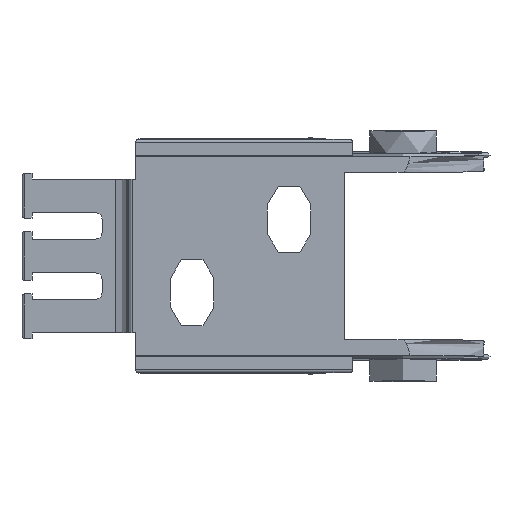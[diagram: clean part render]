
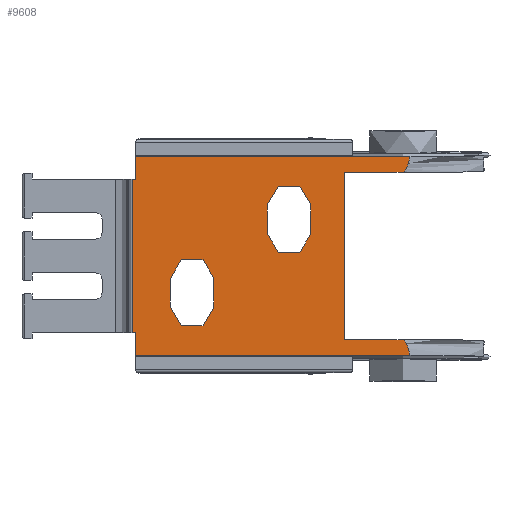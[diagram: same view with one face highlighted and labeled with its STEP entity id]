
A CAD part, front view. The second image highlights one B-rep face of the part: STEP entity #9608.
In plain terms, the highlighted planar face has unit normal (0, -1, 0).
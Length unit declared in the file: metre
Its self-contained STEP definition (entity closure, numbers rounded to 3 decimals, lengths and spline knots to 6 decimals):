
#593=CARTESIAN_POINT('',(0.0211,-0.010931,-0.688182));
#594=DIRECTION('',(0.,-1.,0.));
#595=DIRECTION('',(0.,0.,1.));
#596=AXIS2_PLACEMENT_3D('',#593,#594,#595);
#597=ELLIPSE('',#596,0.744883,0.013);
#598=CARTESIAN_POINT('',(0.022133,-0.010931,0.054348));
#599=VERTEX_POINT('',#598);
#600=CARTESIAN_POINT('',(0.0211,-0.010931,0.056701));
#601=VERTEX_POINT('',#600);
#602=EDGE_CURVE('',#599,#601,#597,.T.);
#706=CARTESIAN_POINT('',(0.0123,-0.010931,0.056701));
#707=VERTEX_POINT('',#706);
#710=CARTESIAN_POINT('',(-0.0189,-0.010931,0.056701));
#711=DIRECTION('',(-1.,0.,0.));
#712=VECTOR('',#711,1.);
#713=LINE('',#710,#712);
#714=EDGE_CURVE('',#601,#707,#713,.T.);
#738=CARTESIAN_POINT('',(0.0123,-0.010931,0.081701));
#739=VERTEX_POINT('',#738);
#742=CARTESIAN_POINT('',(0.0123,-0.010931,0.055451));
#743=DIRECTION('',(0.,0.,-1.));
#744=VECTOR('',#743,1.);
#745=LINE('',#742,#744);
#746=EDGE_CURVE('',#739,#707,#745,.T.);
#798=CARTESIAN_POINT('',(0.0211,-0.010931,0.081701));
#799=VERTEX_POINT('',#798);
#802=CARTESIAN_POINT('',(0.0211,-0.010931,0.081701));
#803=DIRECTION('',(1.,0.,0.));
#804=VECTOR('',#803,1.);
#805=LINE('',#802,#804);
#806=EDGE_CURVE('',#739,#799,#805,.T.);
#7080=CARTESIAN_POINT('',(0.022133,-0.010931,0.084055));
#7081=VERTEX_POINT('',#7080);
#7084=CARTESIAN_POINT('',(0.0211,-0.010931,0.826584));
#7085=DIRECTION('',(0.,-1.,0.));
#7086=DIRECTION('',(0.,0.,1.));
#7087=AXIS2_PLACEMENT_3D('',#7084,#7085,#7086);
#7088=ELLIPSE('',#7087,0.744883,0.013);
#7089=EDGE_CURVE('',#799,#7081,#7088,.T.);
#7153=CARTESIAN_POINT('',(-0.0189,-0.010931,0.084059));
#7154=VERTEX_POINT('',#7153);
#7157=CARTESIAN_POINT('',(0.022216,-0.010931,0.084059));
#7158=DIRECTION('',(-1.,0.,0.));
#7159=VECTOR('',#7158,1.);
#7160=LINE('',#7157,#7159);
#7161=EDGE_CURVE('',#7081,#7154,#7160,.T.);
#7200=CARTESIAN_POINT('',(-0.0189,-0.010931,0.080701));
#7201=VERTEX_POINT('',#7200);
#7204=CARTESIAN_POINT('',(-0.0189,-0.010931,0.127339));
#7205=DIRECTION('',(0.,0.,-1.));
#7206=VECTOR('',#7205,1.);
#7207=LINE('',#7204,#7206);
#7208=EDGE_CURVE('',#7154,#7201,#7207,.T.);
#8818=CARTESIAN_POINT('',(-0.019432,-0.010931,0.080701));
#8819=VERTEX_POINT('',#8818);
#8822=CARTESIAN_POINT('',(0.0051,-0.010931,0.080701));
#8823=DIRECTION('',(-1.,0.,0.));
#8824=VECTOR('',#8823,1.);
#8825=LINE('',#8822,#8824);
#8826=EDGE_CURVE('',#7201,#8819,#8825,.T.);
#8872=CARTESIAN_POINT('',(-0.019432,-0.010931,0.057701));
#8873=VERTEX_POINT('',#8872);
#8876=CARTESIAN_POINT('',(-0.019432,-0.010931,0.057701));
#8877=DIRECTION('',(0.,0.,1.));
#8878=VECTOR('',#8877,1.);
#8879=LINE('',#8876,#8878);
#8880=EDGE_CURVE('',#8873,#8819,#8879,.T.);
#8898=CARTESIAN_POINT('',(0.0051,-0.010931,0.057701));
#8899=DIRECTION('',(1.,0.,0.));
#8900=VECTOR('',#8899,1.);
#8901=LINE('',#8898,#8900);
#8902=CARTESIAN_POINT('',(-0.0189,-0.010931,0.057701));
#8903=VERTEX_POINT('',#8902);
#8904=EDGE_CURVE('',#8873,#8903,#8901,.T.);
#8981=CARTESIAN_POINT('',(-0.0072,-0.010931,0.065851));
#8982=VERTEX_POINT('',#8981);
#8999=CARTESIAN_POINT('',(-0.0072,-0.010931,0.061551));
#9000=VERTEX_POINT('',#8999);
#9003=CARTESIAN_POINT('',(-0.0072,-0.010931,0.081701));
#9004=DIRECTION('',(0.,0.,1.));
#9005=VECTOR('',#9004,1.);
#9006=LINE('',#9003,#9005);
#9007=EDGE_CURVE('',#9000,#8982,#9006,.T.);
#9039=CARTESIAN_POINT('',(-0.0137,-0.010931,0.061551));
#9040=VERTEX_POINT('',#9039);
#9043=CARTESIAN_POINT('',(-0.01045,-0.010931,0.061551));
#9044=DIRECTION('',(0.,1.,0.));
#9045=DIRECTION('',(0.,0.,1.));
#9046=AXIS2_PLACEMENT_3D('',#9043,#9044,#9045);
#9047=CIRCLE('',#9046,0.00325);
#9048=EDGE_CURVE('',#9000,#9040,#9047,.T.);
#9079=CARTESIAN_POINT('',(-0.0137,-0.010931,0.065851));
#9080=VERTEX_POINT('',#9079);
#9083=CARTESIAN_POINT('',(-0.0137,-0.010931,0.081701));
#9084=DIRECTION('',(0.,0.,1.));
#9085=VECTOR('',#9084,1.);
#9086=LINE('',#9083,#9085);
#9087=EDGE_CURVE('',#9040,#9080,#9086,.T.);
#9114=CARTESIAN_POINT('',(-0.01045,-0.010931,0.065851));
#9115=DIRECTION('',(0.,1.,0.));
#9116=DIRECTION('',(0.,0.,1.));
#9117=AXIS2_PLACEMENT_3D('',#9114,#9115,#9116);
#9118=CIRCLE('',#9117,0.00325);
#9119=EDGE_CURVE('',#9080,#8982,#9118,.T.);
#9443=CARTESIAN_POINT('',(0.0008,-0.010931,0.072551));
#9444=VERTEX_POINT('',#9443);
#9457=CARTESIAN_POINT('',(0.0008,-0.010931,0.076851));
#9458=VERTEX_POINT('',#9457);
#9461=CARTESIAN_POINT('',(0.0008,-0.010931,0.081701));
#9462=DIRECTION('',(0.,0.,-1.));
#9463=VECTOR('',#9462,1.);
#9464=LINE('',#9461,#9463);
#9465=EDGE_CURVE('',#9458,#9444,#9464,.T.);
#9489=CARTESIAN_POINT('',(0.0073,-0.010931,0.076851));
#9490=VERTEX_POINT('',#9489);
#9493=CARTESIAN_POINT('',(0.00405,-0.010931,0.076851));
#9494=DIRECTION('',(0.,1.,0.));
#9495=DIRECTION('',(0.,0.,1.));
#9496=AXIS2_PLACEMENT_3D('',#9493,#9494,#9495);
#9497=CIRCLE('',#9496,0.00325);
#9498=EDGE_CURVE('',#9458,#9490,#9497,.T.);
#9522=CARTESIAN_POINT('',(0.0073,-0.010931,0.072551));
#9523=VERTEX_POINT('',#9522);
#9526=CARTESIAN_POINT('',(0.0073,-0.010931,0.081701));
#9527=DIRECTION('',(0.,0.,-1.));
#9528=VECTOR('',#9527,1.);
#9529=LINE('',#9526,#9528);
#9530=EDGE_CURVE('',#9490,#9523,#9529,.T.);
#9551=CARTESIAN_POINT('',(0.00405,-0.010931,0.072551));
#9552=DIRECTION('',(0.,1.,0.));
#9553=DIRECTION('',(0.,0.,1.));
#9554=AXIS2_PLACEMENT_3D('',#9551,#9552,#9553);
#9555=CIRCLE('',#9554,0.00325);
#9556=EDGE_CURVE('',#9523,#9444,#9555,.T.);
#9569=CARTESIAN_POINT('',(0.0051,-0.010931,0.081701));
#9570=DIRECTION('',(0.,-1.,0.));
#9571=DIRECTION('',(0.,0.,-1.));
#9572=AXIS2_PLACEMENT_3D('',#9569,#9570,#9571);
#9573=PLANE('',#9572);
#9574=ORIENTED_EDGE('',*,*,#9556,.T.);
#9575=ORIENTED_EDGE('',*,*,#9465,.F.);
#9576=ORIENTED_EDGE('',*,*,#9498,.T.);
#9577=ORIENTED_EDGE('',*,*,#9530,.T.);
#9578=EDGE_LOOP('',(#9574,#9575,#9576,#9577));
#9579=FACE_BOUND('',#9578,.T.);
#9580=ORIENTED_EDGE('',*,*,#7089,.T.);
#9581=ORIENTED_EDGE('',*,*,#7161,.T.);
#9582=ORIENTED_EDGE('',*,*,#7208,.T.);
#9583=ORIENTED_EDGE('',*,*,#8826,.T.);
#9584=ORIENTED_EDGE('',*,*,#8880,.F.);
#9585=ORIENTED_EDGE('',*,*,#8904,.T.);
#9586=CARTESIAN_POINT('',(-0.0189,-0.010931,0.054344));
#9587=VERTEX_POINT('',#9586);
#9588=EDGE_CURVE('',#8903,#9587,#7207,.T.);
#9589=ORIENTED_EDGE('',*,*,#9588,.T.);
#9590=CARTESIAN_POINT('',(0.0051,-0.010931,0.054344));
#9591=DIRECTION('',(-1.,0.,0.));
#9592=VECTOR('',#9591,1.);
#9593=LINE('',#9590,#9592);
#9594=EDGE_CURVE('',#599,#9587,#9593,.T.);
#9595=ORIENTED_EDGE('',*,*,#9594,.F.);
#9596=ORIENTED_EDGE('',*,*,#602,.T.);
#9597=ORIENTED_EDGE('',*,*,#714,.T.);
#9598=ORIENTED_EDGE('',*,*,#746,.F.);
#9599=ORIENTED_EDGE('',*,*,#806,.T.);
#9600=EDGE_LOOP('',(#9580,#9581,#9582,#9583,#9584,#9585,#9589,#9595,#9596,#9597,#9598,#9599));
#9601=FACE_BOUND('',#9600,.T.);
#9602=ORIENTED_EDGE('',*,*,#9119,.T.);
#9603=ORIENTED_EDGE('',*,*,#9007,.F.);
#9604=ORIENTED_EDGE('',*,*,#9048,.T.);
#9605=ORIENTED_EDGE('',*,*,#9087,.T.);
#9606=EDGE_LOOP('',(#9602,#9603,#9604,#9605));
#9607=FACE_BOUND('',#9606,.T.);
#9608=ADVANCED_FACE('',(#9579,#9601,#9607),#9573,.T.);
